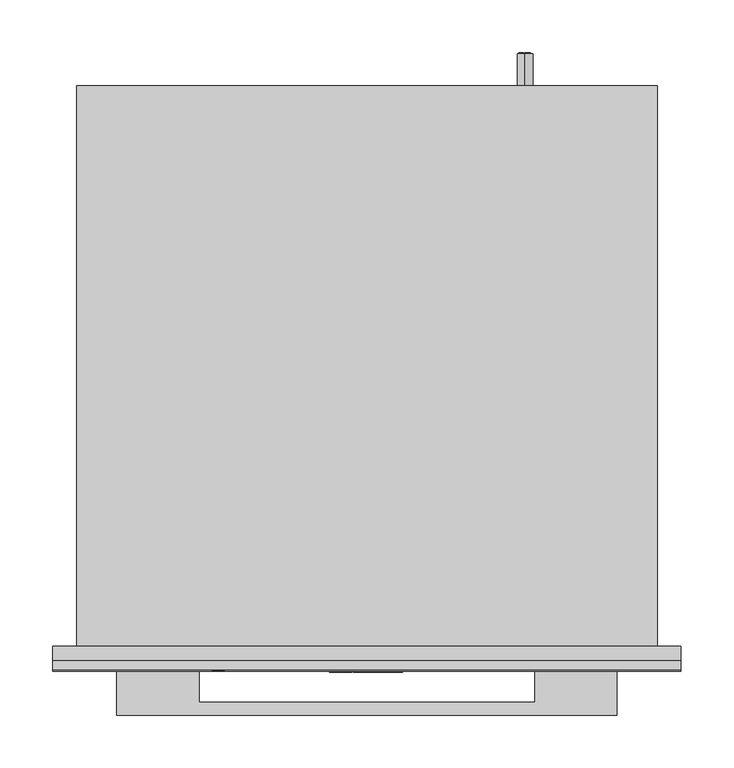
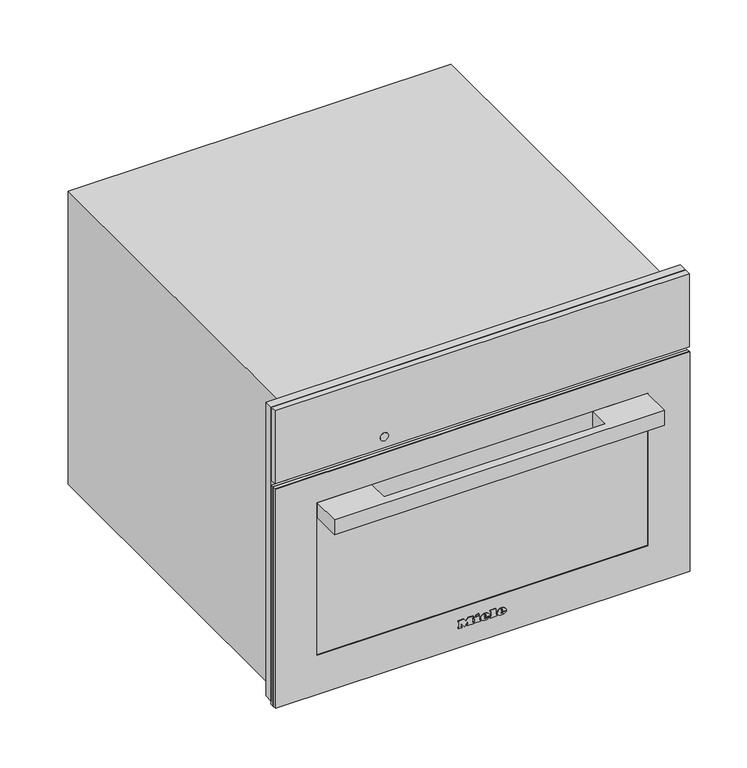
"""IFC4 building model written with IfcOpenShell, lengths in millimetres: proxy geometry, 11132830_RU_DGM7340_EDST-CLST : 23734044_RU_11132830_DGM7340_EDST-CLST."""

from ifc_helpers import new_model, si_unit, point, frame, frame_2d, origin, place, context, project, spatial, polyline, circle_curve, ellipse_curve, trimmed, segment, composite_curve, outline, extrude, faceted_brep, source, transform, mapped, element, save
from ifc_brep_helpers import plane_surface, cylinder_surface, revolved_surface, extruded_surface, advanced_brep


def specialty_equipment_3f3d7ecd(model_context):
    return source(origin(), model_context, "Body", "SolidModel", [
        extrude(outline(polyline([(455.0, 297.5), (455.0, -297.5), (9.0, -297.5), (9.0, -272.5), (344.0, -272.5), (344.0, 272.5), (9.0, 272.5), (9.0, 297.5), (455.0, 297.5)])), frame((0.0, -13.0, 0.0), z_axis=(0.0, 1.0, 0.0), x_axis=(0.0, 0.0, 1.0)), (0.0, 0.0, 1.0), 13.0),
        advanced_brep(
        [(150.0, 561.0, 410.5), (150.0, 561.0, 395.5), (144.4098301, 561.0, 398.0), (148.5, 561.0, 398.0), (148.5, 561.0, 408.0), (147.4955303, 561.0, 408.0), (147.4955303, 561.0, 399.0), (144.0315043, 561.0, 399.0), (144.0315043, 561.0, 398.4582978), (155.0, 561.0, 398.0), (155.0, 561.0, 408.0), (150.0, 561.0, 408.0), (150.0, 561.0, 407.0), (154.0, 561.0, 407.0), (154.0, 561.0, 403.5), (151.0, 561.0, 403.5), (151.0, 561.0, 402.5), (154.0, 561.0, 402.5), (154.0, 561.0, 399.0), (150.0, 561.0, 399.0), (150.0, 561.0, 398.0), (150.0, 531.0, 395.5), (150.0, 531.0, 410.5), (155.0, 562.0, 408.0), (155.0, 562.0, 398.0), (150.0, 562.0, 398.0), (150.0, 562.0, 399.0), (154.0, 562.0, 399.0), (154.0, 562.0, 402.5), (151.0, 562.0, 402.5), (151.0, 562.0, 403.5), (154.0, 562.0, 403.5), (154.0, 562.0, 407.0), (150.0, 562.0, 407.0), (150.0, 562.0, 408.0), (148.5, 562.0, 398.0), (144.0315043, 562.0, 398.0), (144.0315043, 562.0, 399.0), (147.4955303, 562.0, 399.0), (147.4955303, 562.0, 408.0), (148.5, 562.0, 408.0), (144.0315043, 561.0, 398.0)],
        [
            (0, 1, circle_curve(frame((150.0, 561.0, 403.0), z_axis=(0.0, 1.0, 0.0), x_axis=(0.0, 0.0, 1.0)), 7.5)),
            (1, 2, circle_curve(frame((150.0, 561.0, 403.0), z_axis=(0.0, 1.0, 0.0), x_axis=(0.0, 0.0, 1.0)), 7.5)),
            (2, 3),
            (3, 4),
            (4, 5),
            (5, 6),
            (6, 7),
            (7, 8),
            (8, 0, circle_curve(frame((150.0, 561.0, 403.0), z_axis=(0.0, 1.0, 0.0), x_axis=(0.0, 0.0, 1.0)), 7.5)),
            (9, 10),
            (10, 11),
            (11, 12),
            (12, 13),
            (13, 14),
            (14, 15),
            (15, 16),
            (16, 17),
            (17, 18),
            (18, 19),
            (19, 20),
            (20, 9),
            (21, 22, circle_curve(frame((150.0, 531.0, 403.0), z_axis=(0.0, -1.0, 0.0), x_axis=(0.0, 0.0, 1.0)), 7.5)),
            (22, 21, circle_curve(frame((150.0, 531.0, 403.0), z_axis=(0.0, -1.0, 0.0), x_axis=(0.0, 0.0, 1.0)), 7.5)),
            (0, 22),
            (21, 1),
            (8, 2, circle_curve(frame((150.0, 561.0, 403.0), z_axis=(0.0, -1.0, 0.0), x_axis=(0.0, 0.0, 1.0)), 7.5)),
            (23, 24),
            (24, 25),
            (25, 26),
            (26, 27),
            (27, 28),
            (28, 29),
            (29, 30),
            (30, 31),
            (31, 32),
            (32, 33),
            (33, 34),
            (34, 23),
            (35, 36),
            (36, 37),
            (37, 38),
            (38, 39),
            (39, 40),
            (40, 35),
            (8, 41),
            (41, 2),
            (23, 10),
            (9, 24),
            (20, 25),
            (19, 26),
            (18, 27),
            (17, 28),
            (16, 29),
            (15, 30),
            (14, 31),
            (13, 32),
            (12, 33),
            (11, 34),
            (35, 3),
            (41, 36),
            (7, 37),
            (6, 38),
            (5, 39),
            (4, 40),
        ],
        [
            plane_surface(frame((150.0, 561.0, 410.5), z_axis=(0.0, 1.0, 0.0), x_axis=(1.0, 0.0, 0.0))),
            plane_surface(frame((150.0, 531.0, 410.5), z_axis=(0.0, -1.0, 0.0), x_axis=(-1.0, 0.0, 0.0))),
            cylinder_surface(frame((150.0, 561.0, 403.0), z_axis=(0.0, -1.0, 0.0), x_axis=(0.0, 0.0, 1.0)), 7.5),
            plane_surface(frame((155.0, 562.0, 408.0), z_axis=(0.0, 1.0, 0.0), x_axis=(0.0, 0.0, -1.0))),
            plane_surface(frame((155.0, 561.0, 408.0), z_axis=(0.0, -1.0, 0.0), x_axis=(0.0, 0.0, 1.0))),
            plane_surface(frame((155.0, 562.0, 408.0), z_axis=(1.0, 0.0, 0.0), x_axis=(0.0, -1.0, 0.0))),
            plane_surface(frame((155.0, 562.0, 398.0), z_axis=(0.0, 0.0, -1.0), x_axis=(0.0, -1.0, 0.0))),
            plane_surface(frame((150.0, 562.0, 398.0), z_axis=(-1.0, 0.0, 0.0), x_axis=(0.0, -1.0, 0.0))),
            plane_surface(frame((150.0, 562.0, 399.0), z_axis=(0.0, 0.0, 1.0), x_axis=(0.0, -1.0, 0.0))),
            plane_surface(frame((154.0, 562.0, 399.0), z_axis=(-1.0, 0.0, 0.0), x_axis=(0.0, -1.0, 0.0))),
            plane_surface(frame((154.0, 562.0, 402.5), z_axis=(0.0, 0.0, -1.0), x_axis=(0.0, -1.0, 0.0))),
            plane_surface(frame((151.0, 562.0, 402.5), z_axis=(-1.0, 0.0, 0.0), x_axis=(0.0, -1.0, 0.0))),
            plane_surface(frame((151.0, 562.0, 403.5), z_axis=(0.0, 0.0, 1.0), x_axis=(0.0, -1.0, 0.0))),
            plane_surface(frame((154.0, 562.0, 403.5), z_axis=(-1.0, 0.0, 0.0), x_axis=(0.0, -1.0, 0.0))),
            plane_surface(frame((154.0, 562.0, 407.0), z_axis=(0.0, 0.0, -1.0), x_axis=(0.0, -1.0, 0.0))),
            plane_surface(frame((150.0, 562.0, 407.0), z_axis=(-1.0, 0.0, 0.0), x_axis=(0.0, -1.0, 0.0))),
            plane_surface(frame((150.0, 562.0, 408.0), z_axis=(0.0, 0.0, 1.0), x_axis=(0.0, -1.0, 0.0))),
            plane_surface(frame((148.5, 562.0, 398.0), z_axis=(0.0, 0.0, -1.0), x_axis=(0.0, -1.0, 0.0))),
            plane_surface(frame((144.0315043, 562.0, 398.0), z_axis=(-1.0, 0.0, 0.0), x_axis=(0.0, -1.0, 0.0))),
            plane_surface(frame((144.0315043, 562.0, 399.0), z_axis=(0.0, 0.0, 1.0), x_axis=(0.0, -1.0, 0.0))),
            plane_surface(frame((147.4955303, 562.0, 399.0), z_axis=(-1.0, 0.0, 0.0), x_axis=(0.0, -1.0, 0.0))),
            plane_surface(frame((147.4955303, 562.0, 408.0), z_axis=(0.0, 0.0, 1.0), x_axis=(0.0, -1.0, 0.0))),
            plane_surface(frame((148.5, 562.0, 408.0), z_axis=(1.0, 0.0, 0.0), x_axis=(0.0, -1.0, 0.0))),
        ],
        [
            (0, [[1, 2, 3, 4, 5, 6, 7, 8, 9], [10, 11, 12, 13, 14, 15, 16, 17, 18, 19, 20, 21]]),
            (1, [[22, 23]]),
            (2, [[-1, 24, -22, 25]]),
            (2, [[-23, -24, -9, 26, -2, -25]]),
            (3, [[27, 28, 29, 30, 31, 32, 33, 34, 35, 36, 37, 38]]),
            (3, [[39, 40, 41, 42, 43, 44]]),
            (4, [[45, 46, -26]]),
            (5, [[-27, 47, -10, 48]]),
            (6, [[-28, -48, -21, 49]]),
            (7, [[-29, -49, -20, 50]]),
            (8, [[-30, -50, -19, 51]]),
            (9, [[-31, -51, -18, 52]]),
            (10, [[-32, -52, -17, 53]]),
            (11, [[-33, -53, -16, 54]]),
            (12, [[-34, -54, -15, 55]]),
            (13, [[-35, -55, -14, 56]]),
            (14, [[-36, -56, -13, 57]]),
            (15, [[-37, -57, -12, 58]]),
            (16, [[-38, -58, -11, -47]]),
            (17, [[-39, 59, -3, -46, 60]]),
            (18, [[-40, -60, -45, -8, 61]]),
            (19, [[-41, -61, -7, 62]]),
            (20, [[-42, -62, -6, 63]]),
            (21, [[-43, -63, -5, 64]]),
            (22, [[-44, -64, -4, -59]]),
        ],
    ),
        faceted_brep([(275.0, 531.0, 445.0), (275.0, 531.0, 0.0), (-275.0, 531.0, 0.0), (-275.0, 531.0, 445.0), (275.0, 0.0, 445.0), (-275.0, 0.0, 445.0), (-275.0, 0.0, 0.0), (275.0, 0.0, 0.0), (-272.5, 0.0, 344.0), (272.5, 0.0, 344.0), (272.5, 0.0, 8.0), (-272.5, 0.0, 8.0), (272.5, 12.0, 344.0), (-272.5, 12.0, 344.0), (-272.5, 12.0, 8.0), (272.5, 12.0, 8.0), (161.0, 12.0, 286.0), (161.0, 12.0, 58.0), (-220.0, 12.0, 58.0), (-220.0, 12.0, 286.0), (161.0, 419.0, 286.0), (-220.0, 419.0, 286.0), (-220.0, 419.0, 58.0), (161.0, 419.0, 58.0)], [[[0, 1, 2, 3]], [[4, 5, 6, 7], [8, 9, 10, 11]], [[0, 3, 5, 4]], [[3, 2, 6, 5]], [[2, 1, 7, 6]], [[1, 0, 4, 7]], [[12, 13, 14, 15], [16, 17, 18, 19]], [[13, 12, 9, 8]], [[14, 13, 8, 11]], [[15, 14, 11, 10]], [[12, 15, 10, 9]], [[20, 21, 22, 23]], [[20, 23, 17, 16]], [[23, 22, 18, 17]], [[22, 21, 19, 18]], [[21, 20, 16, 19]]]),
        advanced_brep(
        [(26.2998, -24.3, 36.7018), (26.2998, -24.3, 37.8532), (33.9264, -24.3, 37.8532), (20.6568, -24.3, 37.8532), (23.7918, -24.3, 34.0), (33.7326, -24.3, 36.7018), (30.2898, -24.3, 36.7018), (27.5766, -24.3, 35.425), (26.2998, -24.3, 39.3124), (26.2998, -24.3, 40.555), (28.2492, -24.3, 40.555), (28.2492, -24.3, 39.3124), (26.2998, -23.3, 36.7018), (27.5766, -23.3, 35.425), (30.2898, -23.3, 36.7018), (33.7326, -23.3, 36.7018), (23.7918, -23.3, 34.0), (20.6568, -23.3, 37.8532), (33.9264, -23.3, 37.8532), (26.2998, -23.3, 37.8532), (26.2998, -23.3, 39.3124), (28.2492, -23.3, 39.3124), (28.2492, -23.3, 40.555), (26.2998, -23.3, 40.555)],
        [
            (0, 1),
            (1, 2),
            (2, 3, ellipse_curve(frame((27.2916, -24.3, 37.8532), z_axis=(0.0, -1.0, 0.0), x_axis=(-1.0, 0.0, 0.0)), 6.6348, 5.4834)),
            (3, 4, circle_curve(frame((25.0686622, -24.3, 38.2408), z_axis=(0.0, -1.0, 0.0), x_axis=(0.0, 0.0, -1.0)), 4.4288556)),
            (4, 5, circle_curve(frame((27.1587808, -24.3, 41.2504), z_axis=(0.0, -1.0, 0.0), x_axis=(0.0, 0.0, -1.0)), 7.9940516)),
            (5, 6),
            (6, 7, circle_curve(frame((28.1338588, -24.3, 37.762), z_axis=(0.0, 1.0, 0.0), x_axis=(0.0, 0.0, -1.0)), 2.4025208)),
            (7, 0, circle_curve(frame((27.5766, -24.3, 36.7018), z_axis=(0.0, 1.0, 0.0), x_axis=(0.0, 0.0, -1.0)), 1.2768)),
            (8, 9),
            (9, 10, circle_curve(frame((27.2745, -24.3, 40.555), z_axis=(0.0, 1.0, 0.0), x_axis=(0.0, 0.0, -1.0)), 0.9747)),
            (10, 11),
            (11, 8),
            (12, 13, circle_curve(frame((27.5766, -23.3, 36.7018), z_axis=(0.0, -1.0, 0.0), x_axis=(0.0, 0.0, -1.0)), 1.2768)),
            (13, 14, circle_curve(frame((28.1338588, -23.3, 37.762), z_axis=(0.0, -1.0, 0.0), x_axis=(0.0, 0.0, -1.0)), 2.4025208)),
            (14, 15),
            (15, 16, circle_curve(frame((27.1587808, -23.3, 41.2504), z_axis=(0.0, 1.0, 0.0), x_axis=(0.0, 0.0, -1.0)), 7.9940516)),
            (16, 17, circle_curve(frame((25.0686622, -23.3, 38.2408), z_axis=(0.0, 1.0, 0.0), x_axis=(0.0, 0.0, -1.0)), 4.4288556)),
            (17, 18, ellipse_curve(frame((27.2916, -23.3, 37.8532), z_axis=(0.0, 1.0, 0.0), x_axis=(-1.0, 0.0, 0.0)), 6.6348, 5.4834)),
            (18, 19),
            (19, 12),
            (20, 21),
            (21, 22),
            (22, 23, circle_curve(frame((27.2745, -23.3, 40.555), z_axis=(0.0, -1.0, 0.0), x_axis=(0.0, 0.0, -1.0)), 0.9747)),
            (23, 20),
            (0, 12),
            (19, 1),
            (18, 2),
            (5, 15),
            (14, 6),
            (17, 3),
            (13, 7),
            (16, 4),
            (8, 20),
            (23, 9),
            (22, 10),
            (21, 11),
        ],
        [
            plane_surface(frame((26.2998, -24.3, 37.8532), z_axis=(0.0, -1.0, 0.0), x_axis=(0.0, 0.0, 1.0))),
            plane_surface(frame((26.2998, -23.3, 37.8532), z_axis=(0.0, 1.0, 0.0), x_axis=(0.0, 0.0, -1.0))),
            plane_surface(frame((26.2998, -24.3, 36.7018), z_axis=(1.0, 0.0, 0.0), x_axis=(0.0, 1.0, 0.0))),
            plane_surface(frame((26.2998, -24.3, 37.8532), z_axis=(0.0, 0.0, -1.0), x_axis=(0.0, 1.0, 0.0))),
            plane_surface(frame((33.7326, -24.3, 36.7018), z_axis=(0.0, 0.0, 1.0), x_axis=(0.0, 1.0, 0.0))),
            extruded_surface(trimmed(ellipse_curve(frame((27.2916, -22.3, 37.8532), z_axis=(0.0, -1.0, 0.0), x_axis=(-1.0, 0.0, 0.0)), 6.6348, 5.4834), [point((33.9264, -22.3, 37.8532))], [point((20.6568, -22.3, 37.8532))], True, "CARTESIAN"), (0.0, -1.0, 0.0), 1.0),
            revolved_surface(polyline([(28.1338588, -23.3, 35.3594792), (28.1338588, -24.3, 35.3594792)]), (28.1338588, -23.3, 37.762), (0.0, 1.0, 0.0)),
            revolved_surface(polyline([(27.5766, -23.3, 35.425), (27.5766, -24.3, 35.425)]), (27.5766, -23.3, 36.7018), (0.0, 1.0, 0.0)),
            cylinder_surface(frame((25.0686622, -23.3, 38.2408), z_axis=(0.0, -1.0, 0.0), x_axis=(0.0, 0.0, -1.0)), 4.4288556),
            cylinder_surface(frame((27.1587808, -23.3, 41.2504), z_axis=(0.0, -1.0, 0.0), x_axis=(0.0, 0.0, -1.0)), 7.9940516),
            plane_surface(frame((26.2998, -24.3, 39.3124), z_axis=(1.0, 0.0, 0.0), x_axis=(0.0, 1.0, 0.0))),
            revolved_surface(polyline([(27.2745, -23.3, 39.5803), (27.2745, -24.3, 39.5803)]), (27.2745, -23.3, 40.555), (0.0, 1.0, 0.0)),
            plane_surface(frame((28.2492, -24.3, 40.555), z_axis=(-1.0, 0.0, 0.0), x_axis=(0.0, 1.0, 0.0))),
            plane_surface(frame((28.2492, -24.3, 39.3124), z_axis=(0.0, 0.0, 1.0), x_axis=(0.0, 1.0, 0.0))),
        ],
        [
            (0, [[1, 2, 3, 4, 5, 6, 7, 8], [9, 10, 11, 12]]),
            (1, [[13, 14, 15, 16, 17, 18, 19, 20], [21, 22, 23, 24]]),
            (2, [[-1, 25, -20, 26]]),
            (3, [[-2, -26, -19, 27]]),
            (4, [[-6, 28, -15, 29]]),
            (5, [[-3, -27, -18, 30]]),
            (6, [[-7, -29, -14, 31]]),
            (7, [[-8, -31, -13, -25]]),
            (8, [[-4, -30, -17, 32]]),
            (9, [[-5, -32, -16, -28]]),
            (10, [[-9, 33, -24, 34]]),
            (11, [[-10, -34, -23, 35]]),
            (12, [[-11, -35, -22, 36]]),
            (13, [[-12, -36, -21, -33]]),
        ],
    ),
        advanced_brep(
        [(2.508, -24.3, 36.7018), (2.508, -24.3, 37.8532), (10.1346, -24.3, 37.8532), (-3.135, -24.3, 37.8532), (0.0, -24.3, 34.0), (9.9408, -24.3, 36.7018), (6.498, -24.3, 36.7018), (3.7848, -24.3, 35.425), (2.508, -24.3, 39.3124), (2.508, -24.3, 40.555), (4.4574, -24.3, 40.555), (4.4574, -24.3, 39.3124), (2.508, -23.3, 36.7018), (3.7848, -23.3, 35.425), (6.498, -23.3, 36.7018), (9.9408, -23.3, 36.7018), (0.0, -23.3, 34.0), (-3.135, -23.3, 37.8532), (10.1346, -23.3, 37.8532), (2.508, -23.3, 37.8532), (2.508, -23.3, 39.3124), (4.4574, -23.3, 39.3124), (4.4574, -23.3, 40.555), (2.508, -23.3, 40.555)],
        [
            (0, 1),
            (1, 2),
            (2, 3, ellipse_curve(frame((3.4998, -24.3, 37.8532), z_axis=(0.0, -1.0, 0.0), x_axis=(-1.0, 0.0, 0.0)), 6.6348, 5.4834)),
            (3, 4, circle_curve(frame((1.2768622, -24.3, 38.2408), z_axis=(0.0, -1.0, 0.0), x_axis=(0.0, 0.0, -1.0)), 4.4288556)),
            (4, 5, circle_curve(frame((3.3669808, -24.3, 41.2504), z_axis=(0.0, -1.0, 0.0), x_axis=(0.0, 0.0, -1.0)), 7.9940516)),
            (5, 6),
            (6, 7, circle_curve(frame((4.3420588, -24.3, 37.762), z_axis=(0.0, 1.0, 0.0), x_axis=(0.0, 0.0, -1.0)), 2.4025208)),
            (7, 0, circle_curve(frame((3.7848, -24.3, 36.7018), z_axis=(0.0, 1.0, 0.0), x_axis=(0.0, 0.0, -1.0)), 1.2768)),
            (8, 9),
            (9, 10, circle_curve(frame((3.4827, -24.3, 40.555), z_axis=(0.0, 1.0, 0.0), x_axis=(0.0, 0.0, -1.0)), 0.9747)),
            (10, 11),
            (11, 8),
            (12, 13, circle_curve(frame((3.7848, -23.3, 36.7018), z_axis=(0.0, -1.0, 0.0), x_axis=(0.0, 0.0, -1.0)), 1.2768)),
            (13, 14, circle_curve(frame((4.3420588, -23.3, 37.762), z_axis=(0.0, -1.0, 0.0), x_axis=(0.0, 0.0, -1.0)), 2.4025208)),
            (14, 15),
            (15, 16, circle_curve(frame((3.3669808, -23.3, 41.2504), z_axis=(0.0, 1.0, 0.0), x_axis=(0.0, 0.0, -1.0)), 7.9940516)),
            (16, 17, circle_curve(frame((1.2768622, -23.3, 38.2408), z_axis=(0.0, 1.0, 0.0), x_axis=(0.0, 0.0, -1.0)), 4.4288556)),
            (17, 18, ellipse_curve(frame((3.4998, -23.3, 37.8532), z_axis=(0.0, 1.0, 0.0), x_axis=(-1.0, 0.0, 0.0)), 6.6348, 5.4834)),
            (18, 19),
            (19, 12),
            (20, 21),
            (21, 22),
            (22, 23, circle_curve(frame((3.4827, -23.3, 40.555), z_axis=(0.0, -1.0, 0.0), x_axis=(0.0, 0.0, -1.0)), 0.9747)),
            (23, 20),
            (0, 12),
            (19, 1),
            (18, 2),
            (5, 15),
            (14, 6),
            (17, 3),
            (13, 7),
            (16, 4),
            (8, 20),
            (23, 9),
            (22, 10),
            (21, 11),
        ],
        [
            plane_surface(frame((2.508, -24.3, 37.8532), z_axis=(0.0, -1.0, 0.0), x_axis=(0.0, 0.0, 1.0))),
            plane_surface(frame((2.508, -23.3, 37.8532), z_axis=(0.0, 1.0, 0.0), x_axis=(0.0, 0.0, -1.0))),
            plane_surface(frame((2.508, -24.3, 36.7018), z_axis=(1.0, 0.0, 0.0), x_axis=(0.0, 1.0, 0.0))),
            plane_surface(frame((2.508, -24.3, 37.8532), z_axis=(0.0, 0.0, -1.0), x_axis=(0.0, 1.0, 0.0))),
            plane_surface(frame((9.9408, -24.3, 36.7018), z_axis=(0.0, 0.0, 1.0), x_axis=(0.0, 1.0, 0.0))),
            extruded_surface(trimmed(ellipse_curve(frame((3.4998, -22.3, 37.8532), z_axis=(0.0, -1.0, 0.0), x_axis=(-1.0, 0.0, 0.0)), 6.6348, 5.4834), [point((10.1346, -22.3, 37.8532))], [point((-3.135, -22.3, 37.8532))], True, "CARTESIAN"), (0.0, -1.0, 0.0), 1.0),
            revolved_surface(polyline([(4.3420588, -23.3, 35.3594792), (4.3420588, -24.3, 35.3594792)]), (4.3420588, -23.3, 37.762), (0.0, 1.0, 0.0)),
            revolved_surface(polyline([(3.7848, -23.3, 35.425), (3.7848, -24.3, 35.425)]), (3.7848, -23.3, 36.7018), (0.0, 1.0, 0.0)),
            cylinder_surface(frame((1.2768622, -23.3, 38.2408), z_axis=(0.0, -1.0, 0.0), x_axis=(0.0, 0.0, -1.0)), 4.4288556),
            cylinder_surface(frame((3.3669808, -23.3, 41.2504), z_axis=(0.0, -1.0, 0.0), x_axis=(0.0, 0.0, -1.0)), 7.9940516),
            plane_surface(frame((2.508, -24.3, 39.3124), z_axis=(1.0, 0.0, 0.0), x_axis=(0.0, 1.0, 0.0))),
            revolved_surface(polyline([(3.4827, -23.3, 39.5803), (3.4827, -24.3, 39.5803)]), (3.4827, -23.3, 40.555), (0.0, 1.0, 0.0)),
            plane_surface(frame((4.4574, -24.3, 40.555), z_axis=(-1.0, 0.0, 0.0), x_axis=(0.0, 1.0, 0.0))),
            plane_surface(frame((4.4574, -24.3, 39.3124), z_axis=(0.0, 0.0, 1.0), x_axis=(0.0, 1.0, 0.0))),
        ],
        [
            (0, [[1, 2, 3, 4, 5, 6, 7, 8], [9, 10, 11, 12]]),
            (1, [[13, 14, 15, 16, 17, 18, 19, 20], [21, 22, 23, 24]]),
            (2, [[-1, 25, -20, 26]]),
            (3, [[-2, -26, -19, 27]]),
            (4, [[-6, 28, -15, 29]]),
            (5, [[-3, -27, -18, 30]]),
            (6, [[-7, -29, -14, 31]]),
            (7, [[-8, -31, -13, -25]]),
            (8, [[-4, -30, -17, 32]]),
            (9, [[-5, -32, -16, -28]]),
            (10, [[-9, 33, -24, 34]]),
            (11, [[-10, -34, -23, 35]]),
            (12, [[-11, -35, -22, 36]]),
            (13, [[-12, -36, -21, -33]]),
        ],
    ),
        extrude(outline(polyline([(44.7274, -9.9522), (42.8806, -9.0858), (44.6818, -5.2212), (46.5286, -6.0762), (44.7274, -9.9522)])), frame((0.0, -24.3, 0.0), z_axis=(0.0, 1.0, 0.0), x_axis=(0.0, 0.0, 1.0)), (0.0, 0.0, 1.0), 1.0),
        extrude(outline(polyline([(42.6298, -12.768), (40.5892, -12.768), (40.5892, -11.4114), (35.9152, -11.4114), (35.9152, -12.768), (34.0, -12.768), (34.0, -3.7734), (35.9152, -3.7734), (35.9152, -5.0958), (42.6298, -5.0958), (42.6298, -12.768)])), frame((0.0, -24.3, 0.0), z_axis=(0.0, 1.0, 0.0), x_axis=(0.0, 0.0, 1.0)), (0.0, 0.0, 1.0), 1.0),
        extrude(outline(polyline([(43.5418, 10.773), (43.5418, 12.141), (35.9152, 12.141), (35.9152, 10.773), (34.0, 10.773), (34.0, 20.0184), (35.9152, 20.0184), (35.9152, 18.6162), (45.4, 18.6162), (45.4, 10.773), (43.5418, 10.773)])), frame((0.0, -24.3, 0.0), z_axis=(0.0, 1.0, 0.0), x_axis=(0.0, 0.0, 1.0)), (0.0, 0.0, 1.0), 1.0),
        extrude(outline(polyline([(43.5418, -35.4882), (43.5418, -34.1088), (35.9152, -34.1088), (35.9152, -35.4882), (34.0, -35.4882), (34.0, -30.4722), (35.9152, -30.4722), (35.9152, -31.8402), (40.7429247, -31.8402), (34.0, -26.7444), (40.9402223, -21.6258), (35.9152, -21.6258), (35.9152, -23.028), (34.0, -23.028), (34.0, -13.9308), (35.9152, -13.9308), (35.9152, -15.3786), (43.5418, -15.3786), (43.5418, -13.9308), (45.4, -13.9308), (45.4, -20.8734), (41.125, -24.2022), (45.4, -27.5424), (45.4, -35.4882), (43.5418, -35.4882)])), frame((0.0, -24.3, 0.0), z_axis=(0.0, 1.0, 0.0), x_axis=(0.0, 0.0, 1.0)), (0.0, 0.0, 1.0), 1.0),
        extrude(outline(polyline([(297.5, -22.0), (-297.5, -22.0), (-297.5, -13.0), (297.5, -13.0), (297.5, -22.0)])), frame((0.0, 0.0, 344.0), z_axis=(0.0, 0.0, 1.0), x_axis=(1.0, 0.0, 0.0)), (0.0, 0.0, 1.0), 111.0),
        extrude(outline(composite_curve([segment(trimmed(circle_curve(frame_2d((361.0, -140.5745637)), 6.0), [point((361.0, -146.5745637))], [point((361.0, -134.5745637))], False, "CARTESIAN"), True, "CONTINUOUS"), segment(trimmed(circle_curve(frame_2d((361.0, -140.5745637)), 6.0), [point((361.0, -134.5745637))], [point((361.0, -146.5745637))], False, "CARTESIAN"), True, "CONTINUOUS")], self_intersect=False)), frame((0.0, -22.5, 0.0), z_axis=(0.0, 1.0, 0.0), x_axis=(0.0, 0.0, 1.0)), (0.0, 0.0, 1.0), 1.0),
        extrude(outline(polyline([(297.5, -22.0), (-297.5, -22.0), (-297.5, -18.0), (297.5, -18.0), (297.5, -22.0)])), frame((0.0, 0.0, 4.0), z_axis=(0.0, 0.0, 1.0), x_axis=(1.0, 0.0, 0.0)), (0.0, 0.0, 1.0), 333.0),
        extrude(outline(polyline([(-159.0, -22.0), (-159.0, -53.0), (159.0, -53.0), (159.0, -22.0), (237.0, -22.0), (237.0, -65.0), (-237.0, -65.0), (-237.0, -22.0), (-159.0, -22.0)])), frame((0.0, 0.0, 272.0), z_axis=(0.0, 0.0, 1.0), x_axis=(1.0, 0.0, 0.0)), (0.0, 0.0, 1.0), 22.5),
        extrude(outline(polyline([(337.0, 297.5), (337.0, -297.5), (4.0, -297.5), (4.0, 297.5), (337.0, 297.5)]), holes=[polyline([(295.5, -237.5), (295.5, 237.5), (64.0, 237.5), (64.0, -237.5), (295.5, -237.5)])]), frame((0.0, -23.3, 0.0), z_axis=(0.0, 1.0, 0.0), x_axis=(0.0, 0.0, 1.0)), (0.0, 0.0, 1.0), 1.3),
        extrude(outline(polyline([(297.5, -18.0), (-297.5, -18.0), (-297.5, -13.0), (297.5, -13.0), (297.5, -18.0)])), frame((0.0, 0.0, 4.0), z_axis=(0.0, 0.0, 1.0), x_axis=(1.0, 0.0, 0.0)), (0.0, 0.0, 1.0), 333.0),
    ])


if __name__ == "__main__":
    model = new_model("IFC4")
    model_context = context("Model", 3, world=origin())
    ifc_project = project(units=[si_unit("LENGTHUNIT", "METRE", prefix="MILLI")], contexts=[model_context])
    site = spatial("IfcSite", under=ifc_project)
    building = spatial("IfcBuilding", under=site)
    placement = place(None, origin())
    specialty_equipment_shape = specialty_equipment_3f3d7ecd(model_context)
    element("IfcBuildingElementProxy", 1, Name="11132830_RU_DGM7340_EDST-CLST : 23734044_RU_11132830_DGM7340_EDST-CLST", ObjectType="11132830_RU_DGM7340_EDST-CLST : 23734044_RU_11132830_DGM7340_EDST-CLST", at=placement, inside=building, context=model_context, shape_type="MappedRepresentation", body=[
        mapped(specialty_equipment_shape, transform((0.0, 0.0, 0.0), x_axis=(1.0, 0.0, 0.0), y_axis=(0.0, 1.0, 0.0), z_axis=(0.0, 0.0, 1.0))),
    ])
    save(model, "model.ifc")
